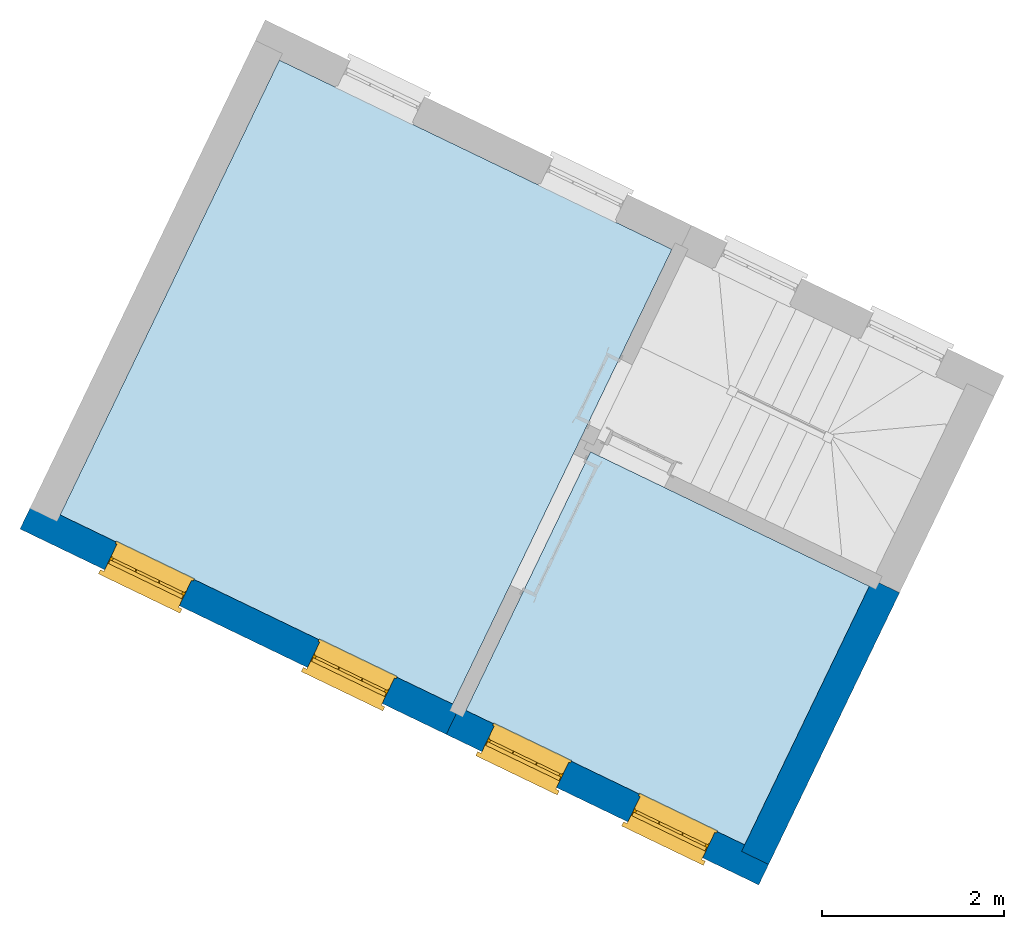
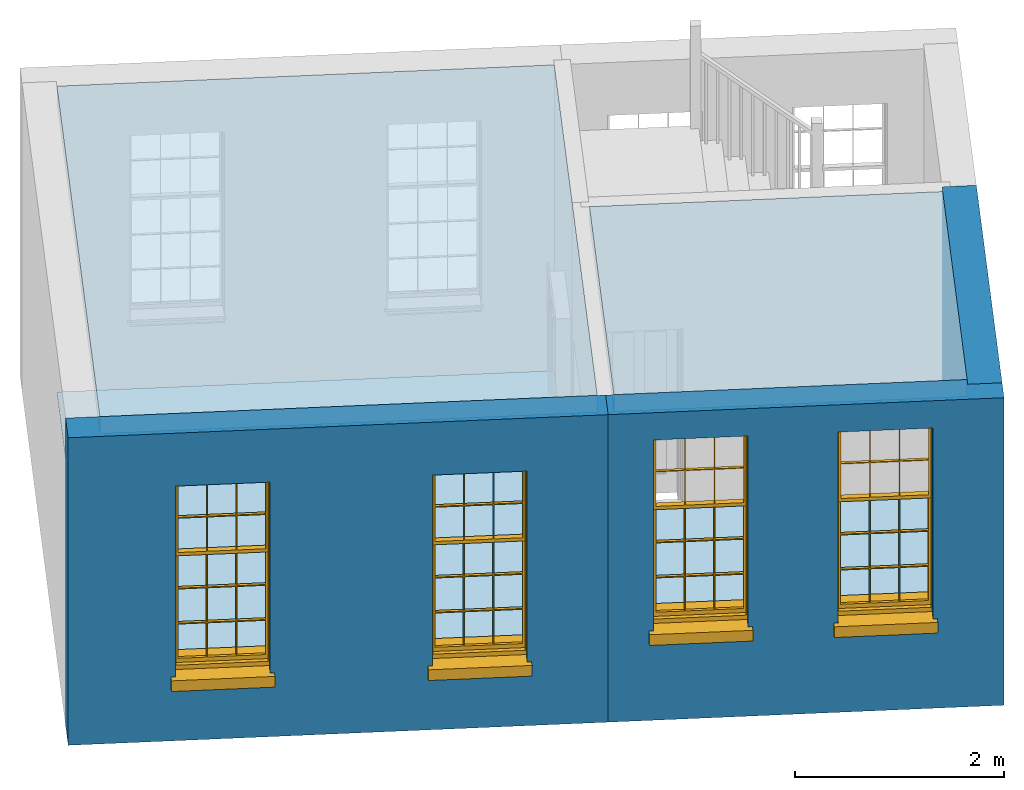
# One storey, part 1 of 3: 4 slabs, 4 windows, 3 walls, 4 openings.
"""IFC4 building model written with IfcOpenShell, lengths in metres."""

from ifc_helpers import new_model, si_unit, frame, origin, origin_with_axes, place, context, subcontext, project, spatial, polyline, outline, extrude, faceted_brep, source, transform, mapped, material, layer, layer_set, layer_usage, type_object, type_shapes, element, fill, save


model = new_model("IFC4")

# Units and contexts
model_context = context("Model", 3, world=origin_with_axes())
body_context = subcontext(model_context, "Body", "Model", "MODEL_VIEW")
ifc_project = project(units=[si_unit("PLANEANGLEUNIT", "RADIAN"), si_unit("MASSUNIT", "GRAM", prefix="KILO"), si_unit("FORCEUNIT", "NEWTON", prefix="KILO"), si_unit("LENGTHUNIT", "METRE"), si_unit("AREAUNIT", "SQUARE_METRE"), si_unit("VOLUMEUNIT", "CUBIC_METRE")], contexts=[model_context, model_context])

# Sites, building, storey
site_1_placement = place(None, origin_with_axes())
site_1 = spatial("IfcSite", under=ifc_project, at=site_1_placement, Name="Tamar")
site_2_placement = place(site_1_placement, origin_with_axes())
site_2 = spatial("IfcSite", under=site_1, at=site_2_placement, Name="Site plot-1", CompositionType="ELEMENT")
building_placement = place(None, origin_with_axes())
building = spatial("IfcBuilding", under=site_2, at=building_placement, Name="Building plot-1", CompositionType="ELEMENT")
storey_placement = place(None, frame((0.0, 0.0, 29.6), z_axis=(0.0, 0.0, 1.0), x_axis=(1.0, 0.0, 0.0)))
storey = spatial("IfcBuildingStorey", under=building, at=storey_placement, Name="plot-1 1", CompositionType="ELEMENT", Elevation=29.6)

# Slabs
slab_1_placement = place(storey_placement, frame((225.301659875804, 295.456759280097, 3.4)))
element("IfcSlab", 1, at=slab_1_placement, inside=storey, Name="My Slab", ObjectType="Slab", PredefinedType="FLOOR", context=body_context, shape_type="SweptSolid", body=[
    extrude(outline(polyline([(0.0, 0.0), (-1.36782321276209, -2.83843082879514), (1.69214133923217, -4.31300984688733), (3.05996455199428, -1.47457901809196), (0.0, 0.0)])), origin_with_axes(), (0.0, 0.0, 1.0), 0.2),
])
slab_2_placement = place(storey_placement, frame((225.301659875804, 295.456759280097, 0.0)))
element("IfcSlab", 2, at=slab_2_placement, inside=storey, Name="My Slab", ObjectType="Slab", PredefinedType="FLOOR", context=body_context, shape_type="SweptSolid", body=[
    extrude(outline(polyline([(0.0, 0.0), (-1.36782321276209, -2.83843082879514), (1.69214133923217, -4.31300984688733), (3.05996455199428, -1.47457901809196), (0.0, 0.0)])), origin_with_axes(), (0.0, 0.0, 1.0), 0.02),
])
slab_3_placement = place(storey_placement, frame((221.886075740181, 299.755874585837, 3.4)))
element("IfcSlab", 3, at=slab_3_placement, inside=storey, Name="My Slab", ObjectType="Slab", PredefinedType="FLOOR", context=body_context, shape_type="SweptSolid", body=[
    extrude(outline(polyline([(0.0, 0.0), (-2.4054161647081, -4.99158614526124), (1.90362391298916, -7.06808735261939), (4.30904007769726, -2.07650120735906), (0.0, 0.0)])), origin_with_axes(), (0.0, 0.0, 1.0), 0.2),
])
slab_4_placement = place(storey_placement, frame((221.886075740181, 299.755874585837, 0.0)))
element("IfcSlab", 4, at=slab_4_placement, inside=storey, Name="My Slab", ObjectType="Slab", PredefinedType="FLOOR", context=body_context, shape_type="SweptSolid", body=[
    extrude(outline(polyline([(0.0, 0.0), (-2.4054161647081, -4.99158614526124), (1.90362391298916, -7.06808735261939), (4.30904007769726, -2.07650120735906), (0.0, 0.0)])), origin_with_axes(), (0.0, 0.0, 1.0), 0.02),
])

# Wall, openings, windows
ifc_material_1 = material(Name="Masonry")
ifc_layer_1 = layer(ifc_material_1, 0.33, ventilated=False)
ifc_layer_set_1 = layer_set([ifc_layer_1], Name="exterior_0.08_0.25")
ifc_layer_usage_1 = layer_usage(ifc_layer_set_1, "AXIS2", "POSITIVE", -0.25)
wall_type_1 = type_object("IfcWallType", Name="exterior_0.08_0.25", PredefinedType="SOLIDWALL", material=ifc_layer_set_1)
wall_1_placement = place(storey_placement, frame((219.373861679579, 294.726949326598, 0.0), z_axis=(0.0, 0.0, 1.0), x_axis=(0.900856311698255, -0.434117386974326, 0.0)))
wall_1 = element("IfcWall", 5, at=wall_1_placement, inside=storey, type_object=wall_type_1, material=ifc_layer_usage_1, Name="exterior", context=body_context, shape_type="SweptSolid", body=[
    extrude(outline(polyline([(-0.250000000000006, 0.0800000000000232), (-0.249999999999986, -0.250000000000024), (4.94327122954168, -0.250000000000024), (4.94327122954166, 0.0800000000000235), (-0.250000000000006, 0.0800000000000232)])), origin_with_axes(), (0.0, 0.0, 1.0), 3.6),
])
opening_1_placement = place(wall_1_placement, frame((0.780817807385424, 0.0, 0.75)))
opening_1 = element("IfcOpeningElement", 6, at=opening_1_placement, cuts=wall_1, Name="My Opening", ObjectType="Opening", context=body_context, shape_type="SweptSolid", body=[
    extrude(outline(polyline([(0.0, -0.27), (0.90999999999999, -0.270000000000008), (0.910000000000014, 1.09999999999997), (2.44249065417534e-14, 1.09999999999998), (0.0, -0.27)])), origin_with_axes(), (0.0, 0.0, 1.0), 2.23),
])
opening_2_placement = place(wall_1_placement, frame((3.25245342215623, 0.0, 0.75)))
opening_2 = element("IfcOpeningElement", 7, at=opening_2_placement, cuts=wall_1, Name="My Opening", ObjectType="Opening", context=body_context, shape_type="SweptSolid", body=[
    extrude(outline(polyline([(0.0, -0.269999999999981), (0.90999999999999, -0.269999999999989), (0.910000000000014, 1.09999999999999), (2.44249065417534e-14, 1.1), (0.0, -0.269999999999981)])), origin_with_axes(), (0.0, 0.0, 1.0), 2.23),
])
window_type = type_object("IfcWindowType", Name="sash_big_taller", PartitioningType="DOUBLE_PANEL_HORIZONTAL", PredefinedType="NOTDEFINED")
shared_shape = source(origin(), body_context, "Body", "Brep", [
    faceted_brep([(0.033125, 0.145, 1.385209), (0.01, 0.145, 1.385209), (0.033125, 0.145, 1.786042), (0.876875, 0.145, 1.385209), (0.876875, 0.145, 1.786042), (0.9, 0.145, 1.385209), (0.876875, 0.145, 1.796042), (0.876875, 0.145, 2.196875), (0.9, 0.145, 2.22), (0.033125, 0.145, 2.196875), (0.033125, 0.145, 1.796042), (0.01, 0.145, 2.22), (0.876875, 0.115, 1.786042), (0.876875, 0.115, 1.385209), (0.9, 0.115, 1.347084), (0.033125, 0.115, 2.196875), (0.01, 0.115, 2.22), (0.033125, 0.115, 1.796042), (0.01, 0.115, 1.347084), (0.033125, 0.115, 1.385209), (0.033125, 0.115, 1.786042), (0.876875, 0.115, 2.196875), (0.876875, 0.115, 1.796042), (0.9, 0.115, 2.22), (0.033125, 0.145, 1.347084), (0.01, 0.145, 1.347084), (0.033125, 0.145, 0.94625), (0.876875, 0.145, 1.347084), (0.876875, 0.145, 0.94625), (0.9, 0.145, 1.347084), (0.876875, 0.145, 0.52625), (0.876875, 0.145, 0.125417), (0.9, 0.145, 0.077167), (0.033125, 0.145, 0.125417), (0.033125, 0.145, 0.52625), (0.01, 0.145, 0.077167), (-0.0425, 0.0, 0.01), (-0.0425, -0.05, 0.001667), (0.0, 0.0, 0.01), (0.9525, 0.0, 0.01), (0.91, 0.0, 0.01), (0.9525, -0.05, 0.001667), (-0.02, 0.33, 0.077167), (0.0, 0.33, 0.077167), (-0.02, 0.36, 0.077167), (0.0, 0.19, 0.077167), (0.01, 0.19, 0.077167), (0.91, 0.19, 0.077167), (0.91, 0.33, 0.077167), (0.9, 0.19, 0.077167), (0.93, 0.33, 0.077167), (0.93, 0.36, 0.077167), (0.01, 0.175, 1.385209), (0.9, 0.175, 1.385209), (0.876875, 0.175, 0.125417), (0.876875, 0.175, 0.52625), (0.9, 0.175, 0.077167), (0.876875, 0.175, 0.94625), (0.876875, 0.175, 1.347084), (0.033125, 0.175, 0.125417), (0.01, 0.175, 0.077167), (0.033125, 0.175, 0.52625), (0.033125, 0.175, 1.347084), (0.033125, 0.175, 0.94625), (-0.02, 0.33, 0.052167), (-0.02, 0.36, 0.052167), (0.93, 0.36, 0.052167), (0.93, 0.33, 0.052167), (0.91, 0.33, 0.052167), (0.0, 0.33, 0.052167), (0.91, 0.1, 0.026667), (0.0, 0.1, 0.026667), (-0.0425, -0.05, -0.123333), (0.9525, -0.05, -0.123333), (-0.0425, 0.0, -0.123333), (0.9525, 0.0, -0.123333), (0.01, 0.19, 2.22), (0.9, 0.19, 2.22), (0.0, 0.19, 2.23), (0.91, 0.19, 2.23), (0.01, 0.1, 0.077167), (0.9, 0.1, 0.077167), (0.592292, 0.145, 0.125417), (0.592292, 0.175, 0.125417), (0.317708, 0.175, 0.125417), (0.317708, 0.145, 0.125417), (0.592292, 0.145, 0.53625), (0.317708, 0.145, 0.53625), (0.317708, 0.145, 0.52625), (0.592292, 0.145, 0.52625), (0.592292, 0.175, 0.53625), (0.317708, 0.175, 0.53625), (0.592292, 0.115, 1.796042), (0.592292, 0.145, 1.796042), (0.317708, 0.145, 1.796042), (0.317708, 0.115, 1.796042), (0.317708, 0.115, 1.786042), (0.592292, 0.115, 1.786042), (0.317708, 0.145, 1.786042), (0.592292, 0.145, 1.786042), (0.602292, 0.115, 1.786042), (0.592292, 0.115, 1.385209), (0.602292, 0.115, 1.385209), (0.602292, 0.145, 1.385209), (0.592292, 0.145, 1.385209), (0.602292, 0.145, 1.786042), (0.876875, 0.145, 0.53625), (0.876875, 0.175, 0.53625), (0.602292, 0.175, 0.53625), (0.602292, 0.145, 0.53625), (0.317708, 0.175, 0.52625), (0.307708, 0.175, 0.125417), (0.307708, 0.175, 0.52625), (0.602292, 0.175, 0.52625), (0.602292, 0.175, 0.125417), (0.592292, 0.175, 0.52625), (0.307708, 0.175, 0.53625), (0.033125, 0.175, 0.53625), (0.317708, 0.175, 1.347084), (0.317708, 0.175, 0.94625), (0.307708, 0.175, 0.94625), (0.307708, 0.175, 1.347084), (0.602292, 0.175, 1.347084), (0.602292, 0.175, 0.94625), (0.592292, 0.175, 0.94625), (0.592292, 0.175, 1.347084), (0.307708, 0.145, 0.52625), (0.307708, 0.145, 0.125417), (0.307708, 0.145, 0.53625), (0.033125, 0.145, 0.53625), (0.307708, 0.145, 1.347084), (0.307708, 0.145, 0.94625), (0.592292, 0.145, 1.347084), (0.592292, 0.145, 0.94625), (0.317708, 0.145, 0.94625), (0.317708, 0.145, 1.347084), (0.602292, 0.145, 0.94625), (0.602292, 0.145, 1.347084), (0.602292, 0.145, 0.52625), (0.602292, 0.145, 0.125417), (0.307708, 0.115, 1.796042), (0.307708, 0.115, 1.786042), (0.307708, 0.115, 1.385209), (0.317708, 0.115, 1.385209), (0.317708, 0.115, 2.196875), (0.307708, 0.115, 2.196875), (0.602292, 0.115, 2.196875), (0.592292, 0.115, 2.196875), (0.602292, 0.115, 1.796042), (0.602292, 0.145, 1.796042), (0.307708, 0.145, 1.796042), (0.307708, 0.145, 2.196875), (0.317708, 0.145, 2.196875), (0.592292, 0.145, 2.196875), (0.602292, 0.145, 2.196875), (0.307708, 0.145, 1.786042), (0.317708, 0.145, 1.385209), (0.307708, 0.145, 1.385209), (0.876875, 0.175, 0.93625), (0.033125, 0.175, 0.93625), (0.033125, 0.145, 0.93625), (0.876875, 0.145, 0.93625), (0.91, 0.1, 2.23), (0.9, 0.1, 2.22), (0.01, 0.1, 2.22), (0.0, 0.1, 2.23), (0.91, 0.0, 0.0), (0.0, 0.0, 0.0), (0.91, 0.33, 0.0), (0.0, 0.33, 0.0), (0.317708, 0.145, 0.93625), (0.592292, 0.145, 0.93625), (0.317708, 0.175, 0.93625), (0.307708, 0.175, 0.93625), (0.602292, 0.175, 0.93625), (0.592292, 0.175, 0.93625), (0.307708, 0.145, 0.93625), (0.602292, 0.145, 0.93625)], [[[0, 1, 2]], [[3, 4, 5]], [[6, 7, 8]], [[9, 10, 11]], [[12, 13, 14]], [[15, 16, 17]], [[18, 19, 20]], [[21, 22, 23]], [[24, 25, 26]], [[27, 28, 29]], [[30, 31, 32]], [[33, 34, 35]], [[14, 27, 29]], [[25, 24, 18]], [[36, 37, 38]], [[39, 40, 41]], [[42, 43, 44]], [[45, 46, 43]], [[47, 48, 49]], [[50, 51, 48]], [[1, 0, 52]], [[5, 53, 3]], [[54, 55, 56]], [[57, 58, 53]], [[59, 60, 61]], [[62, 63, 52]], [[48, 43, 46, 49]], [[51, 44, 43, 48]], [[64, 42, 44, 65]], [[65, 44, 51, 66]], [[66, 51, 50, 67]], [[65, 66, 68, 69]], [[60, 56, 49, 46]], [[70, 71, 38, 40]], [[37, 41, 40, 38]], [[37, 72, 73, 41]], [[74, 75, 73, 72]], [[8, 11, 76, 77]], [[76, 78, 79, 77]], [[32, 35, 80, 81]], [[81, 80, 71, 70]], [[82, 83, 84, 85]], [[86, 87, 88, 89]], [[86, 90, 91, 87]], [[92, 93, 94, 95]], [[92, 95, 96, 97]], [[96, 98, 99, 97]], [[100, 97, 101, 102]], [[103, 104, 99, 105]], [[97, 99, 104, 101]], [[102, 103, 105, 100]], [[106, 107, 108, 109]], [[110, 84, 111, 112]], [[113, 114, 83, 115]], [[116, 112, 61, 117]], [[90, 115, 110, 91]], [[118, 119, 120, 121]], [[122, 123, 124, 125]], [[113, 108, 107, 55]], [[126, 112, 111, 127]], [[34, 61, 112, 126]], [[89, 115, 83, 82]], [[88, 110, 115, 89]], [[85, 84, 110, 88]], [[128, 116, 117, 129]], [[130, 121, 120, 131]], [[132, 125, 124, 133]], [[134, 119, 118, 135]], [[136, 123, 122, 137]], [[138, 113, 55, 30]], [[139, 114, 113, 138]], [[138, 30, 106, 109]], [[88, 126, 127, 85]], [[138, 89, 82, 139]], [[137, 132, 133, 136]], [[128, 129, 34, 126]], [[135, 130, 131, 134]], [[140, 17, 20, 141]], [[96, 141, 142, 143]], [[144, 145, 140, 95]], [[146, 147, 92, 148]], [[100, 12, 22, 148]], [[149, 6, 4, 105]], [[94, 150, 151, 152]], [[149, 93, 153, 154]], [[99, 98, 94, 93]], [[155, 2, 10, 150]], [[156, 157, 155, 98]], [[141, 155, 157, 142]], [[20, 2, 155, 141]], [[143, 156, 98, 96]], [[140, 150, 10, 17]], [[145, 151, 150, 140]], [[147, 153, 93, 92]], [[95, 94, 152, 144]], [[22, 6, 149, 148]], [[148, 149, 154, 146]], [[100, 105, 4, 12]], [[109, 86, 89, 138]], [[108, 113, 115, 90]], [[91, 110, 112, 116]], [[87, 128, 126, 88]], [[97, 100, 148, 92]], [[141, 96, 95, 140]], [[98, 155, 150, 94]], [[105, 99, 93, 149]], [[143, 101, 104, 156]], [[135, 118, 125, 132]], [[144, 152, 153, 147]], [[127, 111, 59, 33]], [[15, 9, 151, 145]], [[146, 154, 7, 21]], [[31, 54, 114, 139]], [[36, 74, 72, 37]], [[39, 41, 73, 75]], [[18, 14, 101, 143]], [[23, 16, 144, 147]], [[83, 56, 60, 84]], [[52, 53, 125, 118]], [[53, 52, 156, 104]], [[11, 8, 153, 152]], [[14, 18, 135, 132]], [[2, 1, 11, 10]], [[8, 5, 4, 6]], [[57, 53, 56, 158]], [[60, 52, 63, 159]], [[26, 25, 35, 160]], [[32, 29, 28, 161]], [[14, 23, 22, 12]], [[18, 20, 17, 16]], [[19, 0, 2, 20]], [[17, 10, 9, 15]], [[12, 4, 3, 13]], [[21, 7, 6, 22]], [[27, 58, 57, 28]], [[30, 55, 54, 31]], [[33, 59, 61, 34]], [[26, 63, 62, 24]], [[5, 8, 77, 53]], [[76, 11, 1, 52]], [[46, 45, 78, 76]], [[49, 77, 79, 47]], [[70, 162, 163, 81]], [[71, 80, 164, 165]], [[19, 142, 157, 0]], [[102, 13, 3, 103]], [[121, 130, 24, 62]], [[29, 32, 81, 14]], [[80, 35, 25, 18]], [[60, 46, 76, 52]], [[77, 49, 56, 53]], [[23, 14, 81, 163]], [[16, 164, 80, 18]], [[35, 85, 127]], [[127, 33, 35]], [[139, 82, 32]], [[32, 31, 139]], [[32, 82, 85, 35]], [[102, 101, 14]], [[14, 13, 102]], [[18, 143, 142]], [[142, 19, 18]], [[146, 21, 23]], [[23, 147, 146]], [[16, 15, 145]], [[145, 144, 16]], [[11, 152, 151]], [[151, 9, 11]], [[154, 153, 8]], [[8, 7, 154]], [[23, 163, 164, 16]], [[162, 165, 164, 163]], [[52, 118, 121]], [[121, 62, 52]], [[125, 53, 122]], [[58, 122, 53]], [[27, 137, 122, 58]], [[56, 83, 114]], [[114, 54, 56]], [[111, 84, 60]], [[60, 59, 111]], [[137, 27, 14]], [[14, 132, 137]], [[130, 135, 18]], [[18, 24, 130]], [[157, 156, 52]], [[52, 0, 157]], [[103, 3, 53]], [[53, 104, 103]], [[79, 78, 165, 162]], [[78, 45, 71, 165]], [[162, 70, 47, 79]], [[166, 75, 74, 167]], [[68, 66, 67]], [[48, 68, 67, 50]], [[69, 64, 65]], [[42, 64, 69, 43]], [[69, 68, 168, 169]], [[70, 68, 48, 47]], [[166, 168, 68, 70]], [[43, 69, 71, 45]], [[69, 169, 167, 71]], [[168, 166, 167, 169]], [[38, 167, 74, 36]], [[71, 167, 38]], [[39, 75, 166, 40]], [[40, 166, 70]], [[133, 134, 170, 171]], [[133, 124, 119, 134]], [[28, 57, 123, 136]], [[172, 91, 116, 173]], [[174, 108, 90, 175]], [[120, 173, 159, 63]], [[124, 175, 172, 119]], [[174, 123, 57, 158]], [[176, 173, 116, 128]], [[160, 159, 173, 176]], [[171, 175, 90, 86]], [[170, 172, 175, 171]], [[87, 91, 172, 170]], [[131, 120, 63, 26]], [[177, 174, 158, 161]], [[109, 108, 174, 177]], [[177, 161, 28, 136]], [[170, 176, 128, 87]], [[177, 171, 86, 109]], [[131, 26, 160, 176]], [[136, 133, 171, 177]], [[123, 174, 175, 124]], [[119, 172, 173, 120]], [[134, 131, 176, 170]], [[129, 117, 159, 160]], [[161, 158, 107, 106]], [[35, 34, 129]], [[35, 129, 160]], [[32, 106, 30]], [[32, 161, 106]], [[56, 55, 107]], [[56, 107, 158]], [[60, 117, 61]], [[60, 159, 117]]]),
])
type_shapes(window_type, [shared_shape])
window_1_placement = place(storey_placement, frame((219.960054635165, 294.144751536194, 0.75), z_axis=(0.0, 0.0, 1.0), x_axis=(0.819779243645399, -0.395046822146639, 0.0)))
window_1 = element("IfcWindow", 8, at=window_1_placement, inside=storey, type_object=window_type, Name="living outside window", OverallHeight=2.23, OverallWidth=0.91, context=body_context, shape_type="MappedRepresentation", body=[
    mapped(shared_shape, transform((0.0, 0.0, 0.0), scale=1.0)),
])
fill(opening_1, window_1)
window_2_placement = place(storey_placement, frame((222.18664317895, 293.071771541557, 0.75), z_axis=(0.0, 0.0, 1.0), x_axis=(0.819779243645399, -0.395046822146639, 0.0)))
window_2 = element("IfcWindow", 9, at=window_2_placement, inside=storey, type_object=window_type, Name="living outside window", OverallHeight=2.23, OverallWidth=0.91, context=body_context, shape_type="MappedRepresentation", body=[
    mapped(shared_shape, transform((0.0, 0.0, 0.0), scale=1.0)),
])
fill(opening_2, window_2)

wall_2_placement = place(storey_placement, frame((223.827038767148, 292.580989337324, 0.0), z_axis=(0.0, 0.0, 1.0), x_axis=(0.900856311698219, -0.434117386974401, 0.0)))
wall_2 = element("IfcWall", 10, at=wall_2_placement, inside=storey, type_object=wall_type_1, material=ifc_layer_usage_1, Name="exterior", context=body_context, shape_type="SweptSolid", body=[
    extrude(outline(polyline([(-1.45257003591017e-14, 0.0800000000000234), (3.34828110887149e-14, -0.250000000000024), (3.80672877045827, -0.249999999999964), (3.80672877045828, 0.0800000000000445), (-1.45257003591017e-14, 0.0800000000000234)])), origin_with_axes(), (0.0, 0.0, 1.0), 3.6),
])
opening_3_placement = place(wall_2_placement, frame((0.434182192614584, 0.0, 1.05)))
opening_3 = element("IfcOpeningElement", 11, at=opening_3_placement, cuts=wall_2, Name="My Opening", ObjectType="Opening", context=body_context, shape_type="SweptSolid", body=[
    extrude(outline(polyline([(0.0, -0.269999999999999), (0.909999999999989, -0.269999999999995), (0.910000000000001, 1.09999999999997), (1.16018306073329e-14, 1.09999999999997), (0.0, -0.269999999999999)])), origin_with_axes(), (0.0, 0.0, 1.0), 2.23),
])
opening_4_placement = place(wall_2_placement, frame((2.21254657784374, 0.0, 1.05)))
opening_4 = element("IfcOpeningElement", 12, at=opening_4_placement, cuts=wall_2, Name="My Opening", ObjectType="Opening", context=body_context, shape_type="SweptSolid", body=[
    extrude(outline(polyline([(0.0, -0.269999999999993), (0.909999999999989, -0.269999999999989), (0.910000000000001, 1.09999999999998), (1.11022302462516e-14, 1.09999999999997), (0.0, -0.269999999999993)])), origin_with_axes(), (0.0, 0.0, 1.0), 2.23),
])
window_3_placement = place(storey_placement, frame((224.100962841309, 292.149272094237, 1.05), z_axis=(0.0, 0.0, 1.0), x_axis=(0.819779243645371, -0.395046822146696, 0.0)))
window_3 = element("IfcWindow", 13, at=window_3_placement, inside=storey, type_object=window_type, Name="kitchen outside window", OverallHeight=2.23, OverallWidth=0.91, context=body_context, shape_type="MappedRepresentation", body=[
    mapped(shared_shape, transform((0.0, 0.0, 0.0), scale=1.0)),
])
fill(opening_3, window_3)
window_4_placement = place(storey_placement, frame((225.703013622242, 291.377253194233, 1.05), z_axis=(0.0, 0.0, 1.0), x_axis=(0.819779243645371, -0.395046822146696, 0.0)))
window_4 = element("IfcWindow", 14, at=window_4_placement, inside=storey, type_object=window_type, Name="kitchen outside window", OverallHeight=2.23, OverallWidth=0.91, context=body_context, shape_type="MappedRepresentation", body=[
    mapped(shared_shape, transform((0.0, 0.0, 0.0), scale=1.0)),
])
fill(opening_4, window_4)

# Wall
ifc_material_2 = material(Name="Masonry")
ifc_layer_2 = layer(ifc_material_2, 0.33, ventilated=False)
ifc_layer_set_2 = layer_set([ifc_layer_2], Name="party_0.08_0.25")
ifc_layer_usage_2 = layer_usage(ifc_layer_set_2, "AXIS2", "POSITIVE", -0.25)
wall_type_2 = type_object("IfcWallType", Name="party_0.08_0.25", PredefinedType="SOLIDWALL", material=ifc_layer_set_2)
wall_3_placement = place(storey_placement, frame((227.031140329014, 291.036951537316, 0.0), z_axis=(0.0, 0.0, 1.0), x_axis=(0.434117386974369, 0.900856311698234, 0.0)))
element("IfcWall", 15, at=wall_3_placement, inside=storey, type_object=wall_type_2, material=ifc_layer_usage_2, Name="party", context=body_context, shape_type="SweptSolid", body=[
    extrude(outline(polyline([(2.62594526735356e-14, 0.0800000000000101), (1.2227761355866e-14, -0.249999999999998), (3.31081416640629, -0.249999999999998), (3.3108141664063, 0.0800000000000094), (2.62594526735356e-14, 0.0800000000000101)])), origin_with_axes(), (0.0, 0.0, 1.0), 3.6),
])

save(model, "model.ifc")
